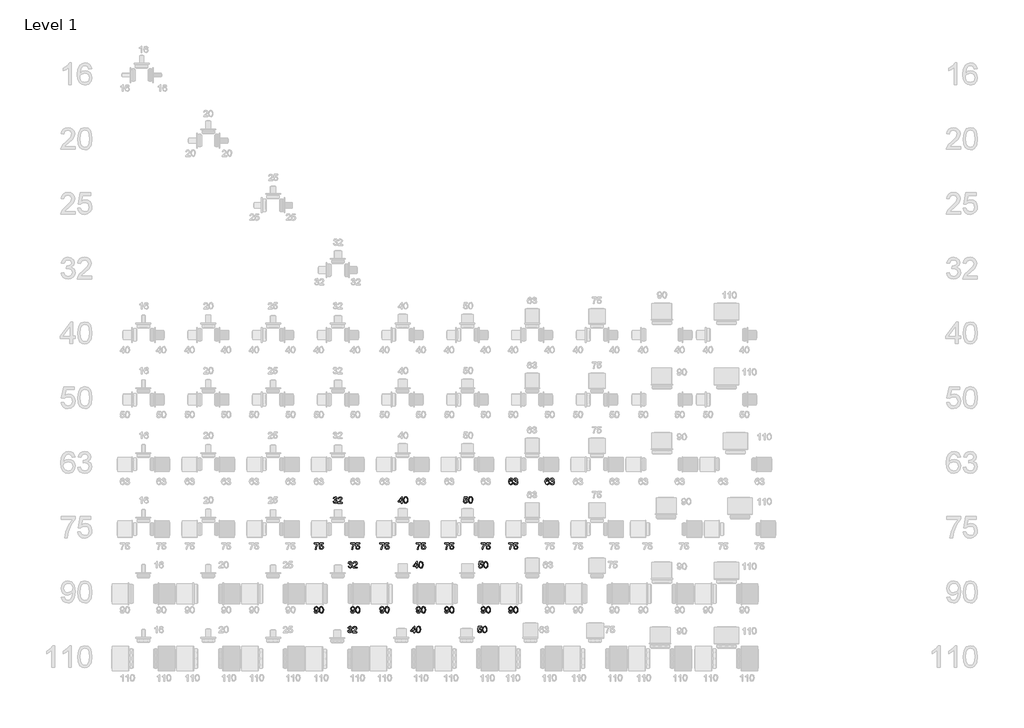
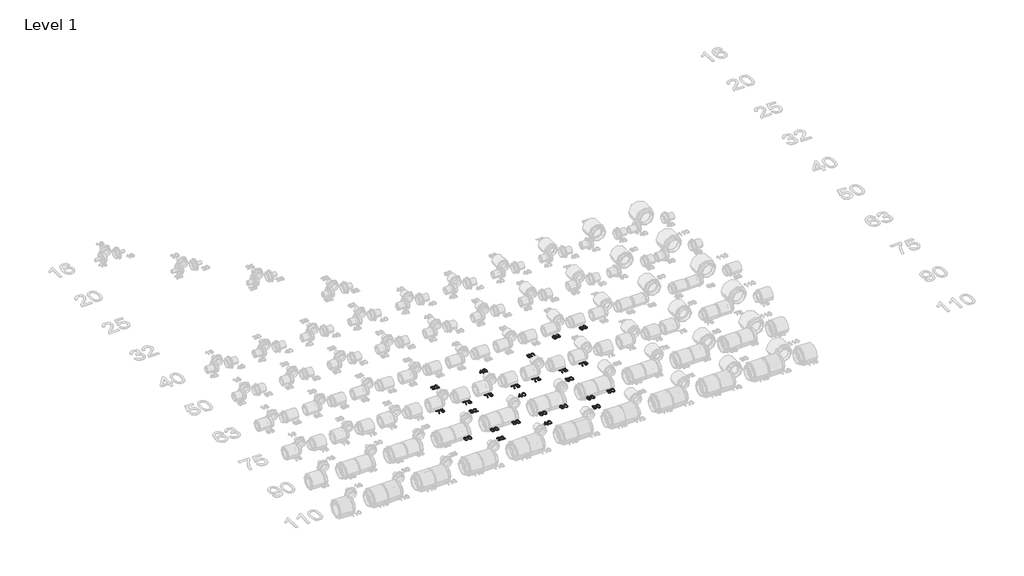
# One storey, part 22 of 58: 25 proxies.
"""IFC4 building model written with IfcOpenShell, lengths in millimetres."""

from ifc_helpers import new_model, si_unit, frame, origin, place, context, project, spatial, polyline, outline, extrude, element, save

model = new_model("IFC4")

# Units and contexts
model_context = context("Model", 3, world=origin())
ifc_project = project(units=[si_unit("LENGTHUNIT", "METRE", prefix="MILLI")], contexts=[model_context])

# Site, building, storey
site = spatial("IfcSite", under=ifc_project)
building = spatial("IfcBuilding", under=site)
storey = spatial("IfcBuildingStorey", under=building, Name="Level 1", Elevation=27.3876384)

# Proxies
placement = place(None, origin())
element("IfcBuildingElementProxy", 1, Name="30mm Arial", ObjectType="30mm Arial", at=placement, inside=storey, context=model_context, shape_type="SweptSolid", body=[
    extrude(outline(polyline([(14975.8418771, 16774.7106348), (14972.0747655, 16774.2397458), (14970.6473834, 16777.381458), (14966.8729141, 16778.9486353), (14963.4736845, 16778.036288), (14960.9021893, 16774.6113066), (14959.8316527, 16767.8974602), (14963.1536271, 16770.9030561), (14967.2702266, 16771.885301), (14973.6713734, 16769.1997625), (14976.3127661, 16762.261508), (14975.0693249, 16757.0633355), (14971.6480224, 16753.3845155), (14966.711046, 16752.107965), (14959.0333488, 16755.4924793), (14956.0645411, 16766.6466614), (14959.3607637, 16779.2797291), (14967.1083586, 16782.715747), (14973.0606892, 16780.589389), (14975.8418771, 16774.7106348)]), holes=[polyline([(14959.8316527, 16762.3203692), (14960.703533, 16759.0572559), (14963.0211896, 16756.6880958), (14966.4167404, 16755.8750766), (14970.8570761, 16757.5599761), (14972.5456545, 16762.1364282), (14970.879149, 16766.5179027), (14966.26223, 16768.1181894), (14961.7041721, 16766.5179027), (14959.8316527, 16762.3203692)])]), frame((0.0, 0.0, 27.3876384), z_axis=(0.0, 0.0, 1.0), x_axis=(1.0, 0.0, 0.0)), (0.0, 0.0, 1.0), 2.0),
    extrude(outline(polyline([(14979.6089888, 16760.5839661), (14983.3761004, 16761.0548551), (14985.4546337, 16757.0890872), (14989.3431464, 16755.8750766), (14993.9195984, 16757.5452609), (14995.6192132, 16761.6802545), (14993.9343137, 16765.5761248), (14989.6521672, 16767.1175504), (14987.0107745, 16766.7055225), (14987.43016, 16770.4726342), (14992.3082752, 16771.5100614), (14994.2065463, 16774.8357146), (14992.8306677, 16777.7824494), (14989.2842852, 16778.9486353), (14985.693757, 16777.771413), (14983.8469893, 16774.2397458), (14980.0798777, 16774.7106348), (14983.1627288, 16780.6188196), (14989.1518477, 16782.715747), (14993.6951904, 16781.6819986), (14996.8736908, 16778.8566648), (14997.973658, 16775.0564438), (14996.9288731, 16771.5836378), (14993.8386643, 16769.0893979), (14997.9442274, 16766.5142239), (14999.3863248, 16761.6140357), (14996.50213, 16754.8744376), (14989.2107088, 16752.107965), (14982.6035482, 16754.4697674), (14979.6089888, 16760.5839661)])), frame((0.0, 0.0, 27.3876384), z_axis=(0.0, 0.0, 1.0), x_axis=(1.0, 0.0, 0.0)), (0.0, 0.0, 1.0), 2.0),
])
element("IfcBuildingElementProxy", 2, Name="30mm Arial", ObjectType="30mm Arial", at=placement, inside=storey, context=model_context, shape_type="SweptSolid", body=[
    extrude(outline(polyline([(15144.5918771, 16774.7106348), (15140.8247655, 16774.2397458), (15139.3973834, 16777.381458), (15135.6229141, 16778.9486353), (15132.2236845, 16778.036288), (15129.6521893, 16774.6113066), (15128.5816527, 16767.8974602), (15131.9036271, 16770.9030561), (15136.0202266, 16771.885301), (15142.4213734, 16769.1997625), (15145.0627661, 16762.261508), (15143.8193249, 16757.0633355), (15140.3980224, 16753.3845155), (15135.461046, 16752.107965), (15127.7833488, 16755.4924793), (15124.8145411, 16766.6466614), (15128.1107637, 16779.2797291), (15135.8583586, 16782.715747), (15141.8106892, 16780.589389), (15144.5918771, 16774.7106348)]), holes=[polyline([(15128.5816527, 16762.3203692), (15129.453533, 16759.0572559), (15131.7711896, 16756.6880958), (15135.1667404, 16755.8750766), (15139.6070761, 16757.5599761), (15141.2956545, 16762.1364282), (15139.629149, 16766.5179027), (15135.01223, 16768.1181894), (15130.4541721, 16766.5179027), (15128.5816527, 16762.3203692)])]), frame((0.0, 0.0, 27.3876384), z_axis=(0.0, 0.0, 1.0), x_axis=(1.0, 0.0, 0.0)), (0.0, 0.0, 1.0), 2.0),
    extrude(outline(polyline([(15148.3589888, 16760.5839661), (15152.1261004, 16761.0548551), (15154.2046337, 16757.0890872), (15158.0931464, 16755.8750766), (15162.6695984, 16757.5452609), (15164.3692132, 16761.6802545), (15162.6843137, 16765.5761248), (15158.4021672, 16767.1175504), (15155.7607745, 16766.7055225), (15156.18016, 16770.4726342), (15161.0582752, 16771.5100614), (15162.9565463, 16774.8357146), (15161.5806677, 16777.7824494), (15158.0342852, 16778.9486353), (15154.443757, 16777.771413), (15152.5969893, 16774.2397458), (15148.8298777, 16774.7106348), (15151.9127288, 16780.6188196), (15157.9018477, 16782.715747), (15162.4451904, 16781.6819986), (15165.6236908, 16778.8566648), (15166.723658, 16775.0564438), (15165.6788731, 16771.5836378), (15162.5886643, 16769.0893979), (15166.6942274, 16766.5142239), (15168.1363248, 16761.6140357), (15165.25213, 16754.8744376), (15157.9607088, 16752.107965), (15151.3535482, 16754.4697674), (15148.3589888, 16760.5839661)])), frame((0.0, 0.0, 27.3876384), z_axis=(0.0, 0.0, 1.0), x_axis=(1.0, 0.0, 0.0)), (0.0, 0.0, 1.0), 2.0),
])
element("IfcBuildingElementProxy", 3, Name="30mm Arial", ObjectType="30mm Arial", at=placement, inside=storey, context=model_context, shape_type="SweptSolid", body=[
    extrude(outline(polyline([(14056.53543, 16478.4777464), (14056.53543, 16482.244858), (14076.3127661, 16482.244858), (14076.3127661, 16479.1987951), (14070.7025657, 16471.0943547), (14066.4093828, 16460.7679071), (14065.0114312, 16452.5788539), (14061.2443196, 16452.5788539), (14062.7415993, 16461.076928), (14066.8508412, 16470.6823269), (14072.5456545, 16478.4777464), (14056.53543, 16478.4777464)])), frame((0.0, 0.0, 27.3876384), z_axis=(0.0, 0.0, 1.0), x_axis=(1.0, 0.0, 0.0)), (0.0, 0.0, 1.0), 2.0),
    extrude(outline(polyline([(14079.6089888, 16460.5839661), (14083.3761004, 16461.0548551), (14085.2743715, 16457.1737001), (14089.2107088, 16455.8750766), (14093.9343137, 16457.6813772), (14095.6192132, 16462.4748796), (14094.0409994, 16466.9483247), (14089.26957, 16468.5890784), (14085.9623108, 16467.9342484), (14083.8469893, 16466.2346336), (14080.0798777, 16466.7055225), (14083.3761004, 16482.244858), (14097.973658, 16482.244858), (14097.973658, 16478.4777464), (14086.4221633, 16478.4777464), (14084.8108402, 16470.1783286), (14090.3217125, 16472.35619), (14096.7633262, 16469.6559361), (14099.3863248, 16462.7103241), (14097.0245224, 16455.7205662), (14089.1959936, 16452.107965), (14082.5483659, 16454.4293004), (14079.6089888, 16460.5839661)])), frame((0.0, 0.0, 27.3876384), z_axis=(0.0, 0.0, 1.0), x_axis=(1.0, 0.0, 0.0)), (0.0, 0.0, 1.0), 2.0),
])
element("IfcBuildingElementProxy", 4, Name="30mm Arial", ObjectType="30mm Arial", at=placement, inside=storey, context=model_context, shape_type="SweptSolid", body=[
    extrude(outline(polyline([(14225.28543, 16478.4777464), (14225.28543, 16482.244858), (14245.0627661, 16482.244858), (14245.0627661, 16479.1987951), (14239.4525657, 16471.0943547), (14235.1593828, 16460.7679071), (14233.7614312, 16452.5788539), (14229.9943196, 16452.5788539), (14231.4915993, 16461.076928), (14235.6008412, 16470.6823269), (14241.2956545, 16478.4777464), (14225.28543, 16478.4777464)])), frame((0.0, 0.0, 27.3876384), z_axis=(0.0, 0.0, 1.0), x_axis=(1.0, 0.0, 0.0)), (0.0, 0.0, 1.0), 2.0),
    extrude(outline(polyline([(14248.3589888, 16460.5839661), (14252.1261004, 16461.0548551), (14254.0243715, 16457.1737001), (14257.9607088, 16455.8750766), (14262.6843137, 16457.6813772), (14264.3692132, 16462.4748796), (14262.7909994, 16466.9483247), (14258.01957, 16468.5890784), (14254.7123108, 16467.9342484), (14252.5969893, 16466.2346336), (14248.8298777, 16466.7055225), (14252.1261004, 16482.244858), (14266.723658, 16482.244858), (14266.723658, 16478.4777464), (14255.1721633, 16478.4777464), (14253.5608402, 16470.1783286), (14259.0717125, 16472.35619), (14265.5133262, 16469.6559361), (14268.1363248, 16462.7103241), (14265.7745224, 16455.7205662), (14257.9459936, 16452.107965), (14251.2983659, 16454.4293004), (14248.3589888, 16460.5839661)])), frame((0.0, 0.0, 27.3876384), z_axis=(0.0, 0.0, 1.0), x_axis=(1.0, 0.0, 0.0)), (0.0, 0.0, 1.0), 2.0),
])
element("IfcBuildingElementProxy", 5, Name="30mm Arial", ObjectType="30mm Arial", at=placement, inside=storey, context=model_context, shape_type="SweptSolid", body=[
    extrude(outline(polyline([(14143.4636148, 16674.4026067), (14147.2307265, 16674.8734957), (14149.3092597, 16670.9077278), (14153.1977724, 16669.6937172), (14157.7742244, 16671.3639014), (14159.4738393, 16675.4988951), (14157.7889397, 16679.3947654), (14153.5067933, 16680.9361909), (14150.8654006, 16680.5241631), (14151.284786, 16684.2912747), (14156.1629013, 16685.328702), (14158.0611724, 16688.6543552), (14156.6852937, 16691.60109), (14153.1389113, 16692.7672759), (14149.548383, 16691.5900535), (14147.7016154, 16688.0583864), (14143.9345038, 16688.5292753), (14147.0173549, 16694.4374602), (14153.0064738, 16696.5343875), (14157.5498164, 16695.5006391), (14160.7283169, 16692.6753054), (14161.828284, 16688.8750844), (14160.7834992, 16685.4022784), (14157.6932904, 16682.9080384), (14161.7988535, 16680.3328645), (14163.2409509, 16675.4326763), (14160.356756, 16668.6930781), (14153.0653349, 16665.9266055), (14146.4581743, 16668.2884079), (14143.4636148, 16674.4026067)])), frame((0.0, 0.0, 27.3876384), z_axis=(0.0, 0.0, 1.0), x_axis=(1.0, 0.0, 0.0)), (0.0, 0.0, 1.0), 2.0),
    extrude(outline(polyline([(14185.8436207, 16670.1646061), (14185.8436207, 16666.3974945), (14166.0662846, 16666.3974945), (14166.4709548, 16668.9947414), (14168.7591808, 16672.9936187), (14173.475428, 16677.3603779), (14179.9795817, 16683.6364448), (14181.6056201, 16687.9038759), (14180.0715522, 16691.3582879), (14176.0653172, 16692.7672759), (14171.8898566, 16691.3913972), (14170.3042852, 16687.5874974), (14166.5371736, 16688.0583864), (14169.4250472, 16694.3638838), (14176.1462513, 16696.5343875), (14182.8895283, 16694.1210816), (14185.3727317, 16688.1319628), (14184.7031865, 16684.5598286), (14182.4775004, 16680.8662934), (14177.0806715, 16675.704909), (14172.7470216, 16672.0812713), (14171.0474068, 16670.1646061), (14185.8436207, 16670.1646061)])), frame((0.0, 0.0, 27.3876384), z_axis=(0.0, 0.0, 1.0), x_axis=(1.0, 0.0, 0.0)), (0.0, 0.0, 1.0), 2.0),
])
element("IfcBuildingElementProxy", 6, Name="30mm Arial", ObjectType="30mm Arial", at=placement, inside=storey, context=model_context, shape_type="SweptSolid", body=[
    extrude(outline(polyline([(14360.53543, 16478.4777464), (14360.53543, 16482.244858), (14380.3127661, 16482.244858), (14380.3127661, 16479.1987951), (14374.7025657, 16471.0943547), (14370.4093828, 16460.7679071), (14369.0114312, 16452.5788539), (14365.2443196, 16452.5788539), (14366.7415993, 16461.076928), (14370.8508412, 16470.6823269), (14376.5456545, 16478.4777464), (14360.53543, 16478.4777464)])), frame((0.0, 0.0, 27.3876384), z_axis=(0.0, 0.0, 1.0), x_axis=(1.0, 0.0, 0.0)), (0.0, 0.0, 1.0), 2.0),
    extrude(outline(polyline([(14383.6089888, 16460.5839661), (14387.3761004, 16461.0548551), (14389.2743715, 16457.1737001), (14393.2107088, 16455.8750766), (14397.9343137, 16457.6813772), (14399.6192132, 16462.4748796), (14398.0409994, 16466.9483247), (14393.26957, 16468.5890784), (14389.9623108, 16467.9342484), (14387.8469893, 16466.2346336), (14384.0798777, 16466.7055225), (14387.3761004, 16482.244858), (14401.973658, 16482.244858), (14401.973658, 16478.4777464), (14390.4221633, 16478.4777464), (14388.8108402, 16470.1783286), (14394.3217125, 16472.35619), (14400.7633262, 16469.6559361), (14403.3863248, 16462.7103241), (14401.0245224, 16455.7205662), (14393.1959936, 16452.107965), (14386.5483659, 16454.4293004), (14383.6089888, 16460.5839661)])), frame((0.0, 0.0, 27.3876384), z_axis=(0.0, 0.0, 1.0), x_axis=(1.0, 0.0, 0.0)), (0.0, 0.0, 1.0), 2.0),
])
element("IfcBuildingElementProxy", 7, Name="30mm Arial", ObjectType="30mm Arial", at=placement, inside=storey, context=model_context, shape_type="SweptSolid", body=[
    extrude(outline(polyline([(14529.28543, 16478.4777464), (14529.28543, 16482.244858), (14549.0627661, 16482.244858), (14549.0627661, 16479.1987951), (14543.4525657, 16471.0943547), (14539.1593828, 16460.7679071), (14537.7614312, 16452.5788539), (14533.9943196, 16452.5788539), (14535.4915993, 16461.076928), (14539.6008412, 16470.6823269), (14545.2956545, 16478.4777464), (14529.28543, 16478.4777464)])), frame((0.0, 0.0, 27.3876384), z_axis=(0.0, 0.0, 1.0), x_axis=(1.0, 0.0, 0.0)), (0.0, 0.0, 1.0), 2.0),
    extrude(outline(polyline([(14552.3589888, 16460.5839661), (14556.1261004, 16461.0548551), (14558.0243715, 16457.1737001), (14561.9607088, 16455.8750766), (14566.6843137, 16457.6813772), (14568.3692132, 16462.4748796), (14566.7909994, 16466.9483247), (14562.01957, 16468.5890784), (14558.7123108, 16467.9342484), (14556.5969893, 16466.2346336), (14552.8298777, 16466.7055225), (14556.1261004, 16482.244858), (14570.723658, 16482.244858), (14570.723658, 16478.4777464), (14559.1721633, 16478.4777464), (14557.5608402, 16470.1783286), (14563.0717125, 16472.35619), (14569.5133262, 16469.6559361), (14572.1363248, 16462.7103241), (14569.7745224, 16455.7205662), (14561.9459936, 16452.107965), (14555.2983659, 16454.4293004), (14552.3589888, 16460.5839661)])), frame((0.0, 0.0, 27.3876384), z_axis=(0.0, 0.0, 1.0), x_axis=(1.0, 0.0, 0.0)), (0.0, 0.0, 1.0), 2.0),
])
element("IfcBuildingElementProxy", 8, Name="30mm Arial", ObjectType="30mm Arial", at=placement, inside=storey, context=model_context, shape_type="SweptSolid", body=[
    extrude(outline(polyline([(14459.7067276, 16666.3974945), (14459.7067276, 16673.4608288), (14446.050948, 16673.4608288), (14446.050948, 16677.2279404), (14460.6485055, 16696.0634986), (14463.4738393, 16696.0634986), (14463.4738393, 16677.2279404), (14467.2409509, 16677.2279404), (14467.2409509, 16673.4608288), (14463.4738393, 16673.4608288), (14463.4738393, 16666.3974945), (14459.7067276, 16666.3974945)]), holes=[polyline([(14459.7067276, 16677.2279404), (14459.7067276, 16688.8677268), (14450.6862611, 16677.2279404), (14459.7067276, 16677.2279404)])]), frame((0.0, 0.0, 27.3876384), z_axis=(0.0, 0.0, 1.0), x_axis=(1.0, 0.0, 0.0)), (0.0, 0.0, 1.0), 2.0),
    extrude(outline(polyline([(14470.5371736, 16681.2231389), (14471.6444984, 16689.8941175), (14474.9333634, 16694.8936338), (14480.4258416, 16696.5343875), (14484.8257103, 16695.5631791), (14487.8644155, 16692.7635971), (14489.6302491, 16688.3048673), (14490.3145096, 16681.2231389), (14489.2182213, 16672.5889485), (14485.9403927, 16667.5783957), (14480.4258416, 16665.9266055), (14473.5390906, 16668.7960851), (14470.5371736, 16681.2231389)]), holes=[polyline([(14474.3042852, 16681.2304965), (14476.0701188, 16671.8752574), (14480.4258416, 16669.6937172), (14484.7815644, 16671.882615), (14486.547398, 16681.2304965), (14484.8404255, 16690.4790499), (14480.3816958, 16692.7672759), (14476.1289799, 16690.7512826), (14474.3042852, 16681.2304965)])]), frame((0.0, 0.0, 27.3876384), z_axis=(0.0, 0.0, 1.0), x_axis=(1.0, 0.0, 0.0)), (0.0, 0.0, 1.0), 2.0),
])
element("IfcBuildingElementProxy", 9, Name="30mm Arial", ObjectType="30mm Arial", at=placement, inside=storey, context=model_context, shape_type="SweptSolid", body=[
    extrude(outline(polyline([(14660.53543, 16478.4777464), (14660.53543, 16482.244858), (14680.3127661, 16482.244858), (14680.3127661, 16479.1987951), (14674.7025657, 16471.0943547), (14670.4093828, 16460.7679071), (14669.0114312, 16452.5788539), (14665.2443196, 16452.5788539), (14666.7415993, 16461.076928), (14670.8508412, 16470.6823269), (14676.5456545, 16478.4777464), (14660.53543, 16478.4777464)])), frame((0.0, 0.0, 27.3876384), z_axis=(0.0, 0.0, 1.0), x_axis=(1.0, 0.0, 0.0)), (0.0, 0.0, 1.0), 2.0),
    extrude(outline(polyline([(14683.6089888, 16460.5839661), (14687.3761004, 16461.0548551), (14689.2743715, 16457.1737001), (14693.2107088, 16455.8750766), (14697.9343137, 16457.6813772), (14699.6192132, 16462.4748796), (14698.0409994, 16466.9483247), (14693.26957, 16468.5890784), (14689.9623108, 16467.9342484), (14687.8469893, 16466.2346336), (14684.0798777, 16466.7055225), (14687.3761004, 16482.244858), (14701.973658, 16482.244858), (14701.973658, 16478.4777464), (14690.4221633, 16478.4777464), (14688.8108402, 16470.1783286), (14694.3217125, 16472.35619), (14700.7633262, 16469.6559361), (14703.3863248, 16462.7103241), (14701.0245224, 16455.7205662), (14693.1959936, 16452.107965), (14686.5483659, 16454.4293004), (14683.6089888, 16460.5839661)])), frame((0.0, 0.0, 27.3876384), z_axis=(0.0, 0.0, 1.0), x_axis=(1.0, 0.0, 0.0)), (0.0, 0.0, 1.0), 2.0),
])
element("IfcBuildingElementProxy", 10, Name="30mm Arial", ObjectType="30mm Arial", at=placement, inside=storey, context=model_context, shape_type="SweptSolid", body=[
    extrude(outline(polyline([(14829.28543, 16478.4777464), (14829.28543, 16482.244858), (14849.0627661, 16482.244858), (14849.0627661, 16479.1987951), (14843.4525657, 16471.0943547), (14839.1593828, 16460.7679071), (14837.7614312, 16452.5788539), (14833.9943196, 16452.5788539), (14835.4915993, 16461.076928), (14839.6008412, 16470.6823269), (14845.2956545, 16478.4777464), (14829.28543, 16478.4777464)])), frame((0.0, 0.0, 27.3876384), z_axis=(0.0, 0.0, 1.0), x_axis=(1.0, 0.0, 0.0)), (0.0, 0.0, 1.0), 2.0),
    extrude(outline(polyline([(14852.3589888, 16460.5839661), (14856.1261004, 16461.0548551), (14858.0243715, 16457.1737001), (14861.9607088, 16455.8750766), (14866.6843137, 16457.6813772), (14868.3692132, 16462.4748796), (14866.7909994, 16466.9483247), (14862.01957, 16468.5890784), (14858.7123108, 16467.9342484), (14856.5969893, 16466.2346336), (14852.8298777, 16466.7055225), (14856.1261004, 16482.244858), (14870.723658, 16482.244858), (14870.723658, 16478.4777464), (14859.1721633, 16478.4777464), (14857.5608402, 16470.1783286), (14863.0717125, 16472.35619), (14869.5133262, 16469.6559361), (14872.1363248, 16462.7103241), (14869.7745224, 16455.7205662), (14861.9459936, 16452.107965), (14855.2983659, 16454.4293004), (14852.3589888, 16460.5839661)])), frame((0.0, 0.0, 27.3876384), z_axis=(0.0, 0.0, 1.0), x_axis=(1.0, 0.0, 0.0)), (0.0, 0.0, 1.0), 2.0),
])
element("IfcBuildingElementProxy", 11, Name="30mm Arial", ObjectType="30mm Arial", at=placement, inside=storey, context=model_context, shape_type="SweptSolid", body=[
    extrude(outline(polyline([(14747.4636148, 16674.4026067), (14751.2307265, 16674.8734957), (14753.1289976, 16670.9923406), (14757.0653349, 16669.6937172), (14761.7889397, 16671.5000178), (14763.4738393, 16676.2935202), (14761.8956255, 16680.7669652), (14757.124196, 16682.4077189), (14753.8169369, 16681.752889), (14751.7016154, 16680.0532742), (14747.9345038, 16680.5241631), (14751.2307265, 16696.0634986), (14765.828284, 16696.0634986), (14765.828284, 16692.296387), (14754.2767894, 16692.296387), (14752.6654662, 16683.9969691), (14758.1763385, 16686.1748306), (14764.6179523, 16683.4745767), (14767.2409509, 16676.5289646), (14764.8791485, 16669.5392067), (14757.0506196, 16665.9266055), (14750.402992, 16668.2479409), (14747.4636148, 16674.4026067)])), frame((0.0, 0.0, 27.3876384), z_axis=(0.0, 0.0, 1.0), x_axis=(1.0, 0.0, 0.0)), (0.0, 0.0, 1.0), 2.0),
    extrude(outline(polyline([(14770.5371736, 16681.2231389), (14771.6444984, 16689.8941175), (14774.9333634, 16694.8936338), (14780.4258416, 16696.5343875), (14784.8257103, 16695.5631791), (14787.8644155, 16692.7635971), (14789.6302491, 16688.3048673), (14790.3145096, 16681.2231389), (14789.2182213, 16672.5889485), (14785.9403927, 16667.5783957), (14780.4258416, 16665.9266055), (14773.5390906, 16668.7960851), (14770.5371736, 16681.2231389)]), holes=[polyline([(14774.3042852, 16681.2304965), (14776.0701188, 16671.8752574), (14780.4258416, 16669.6937172), (14784.7815644, 16671.882615), (14786.547398, 16681.2304965), (14784.8404255, 16690.4790499), (14780.3816958, 16692.7672759), (14776.1289799, 16690.7512826), (14774.3042852, 16681.2304965)])]), frame((0.0, 0.0, 27.3876384), z_axis=(0.0, 0.0, 1.0), x_axis=(1.0, 0.0, 0.0)), (0.0, 0.0, 1.0), 2.0),
])
element("IfcBuildingElementProxy", 12, Name="30mm Arial", ObjectType="30mm Arial", at=placement, inside=storey, context=model_context, shape_type="SweptSolid", body=[
    extrude(outline(polyline([(14956.53543, 16478.4777464), (14956.53543, 16482.244858), (14976.3127661, 16482.244858), (14976.3127661, 16479.1987951), (14970.7025657, 16471.0943547), (14966.4093828, 16460.7679071), (14965.0114312, 16452.5788539), (14961.2443196, 16452.5788539), (14962.7415993, 16461.076928), (14966.8508412, 16470.6823269), (14972.5456545, 16478.4777464), (14956.53543, 16478.4777464)])), frame((0.0, 0.0, 27.3876384), z_axis=(0.0, 0.0, 1.0), x_axis=(1.0, 0.0, 0.0)), (0.0, 0.0, 1.0), 2.0),
    extrude(outline(polyline([(14979.6089888, 16460.5839661), (14983.3761004, 16461.0548551), (14985.2743715, 16457.1737001), (14989.2107088, 16455.8750766), (14993.9343137, 16457.6813772), (14995.6192132, 16462.4748796), (14994.0409994, 16466.9483247), (14989.26957, 16468.5890784), (14985.9623108, 16467.9342484), (14983.8469893, 16466.2346336), (14980.0798777, 16466.7055225), (14983.3761004, 16482.244858), (14997.973658, 16482.244858), (14997.973658, 16478.4777464), (14986.4221633, 16478.4777464), (14984.8108402, 16470.1783286), (14990.3217125, 16472.35619), (14996.7633262, 16469.6559361), (14999.3863248, 16462.7103241), (14997.0245224, 16455.7205662), (14989.1959936, 16452.107965), (14982.5483659, 16454.4293004), (14979.6089888, 16460.5839661)])), frame((0.0, 0.0, 27.3876384), z_axis=(0.0, 0.0, 1.0), x_axis=(1.0, 0.0, 0.0)), (0.0, 0.0, 1.0), 2.0),
])
element("IfcBuildingElementProxy", 13, Name="30mm Arial", ObjectType="30mm Arial", at=placement, inside=storey, context=model_context, shape_type="SweptSolid", body=[
    extrude(outline(polyline([(14057.006319, 16165.1130772), (14060.7734306, 16165.5839661), (14062.4656878, 16161.9897591), (14065.6736188, 16160.8750766), (14068.7233605, 16161.5924465), (14070.7908573, 16163.5091117), (14072.023262, 16166.7832615), (14072.5677274, 16171.1536996), (14069.5327009, 16169.0346993), (14065.4013861, 16167.9384109), (14059.1069252, 16170.6165918), (14056.53543, 16177.6725685), (14059.232005, 16184.956632), (14065.9899973, 16187.715747), (14071.3573956, 16186.141212), (14075.0509308, 16181.6530517), (14076.3127661, 16173.2211964), (14075.0546097, 16164.0719711), (14071.3132498, 16158.8885138), (14065.4970354, 16157.107965), (14059.7065728, 16159.2085712), (14057.006319, 16165.1130772)]), holes=[polyline([(14072.5456545, 16177.7608602), (14070.919616, 16182.2784511), (14066.6006814, 16183.9486353), (14062.0683752, 16182.1496924), (14060.3025417, 16177.4886275), (14061.9727259, 16173.3131669), (14066.4976745, 16171.7055225), (14070.8423608, 16173.3131669), (14072.5456545, 16177.7608602)])]), frame((0.0, 0.0, 27.3876384), z_axis=(0.0, 0.0, 1.0), x_axis=(1.0, 0.0, 0.0)), (0.0, 0.0, 1.0), 2.0),
    extrude(outline(polyline([(14079.6089888, 16172.4044983), (14080.7163136, 16181.075477), (14084.0051786, 16186.0749933), (14089.4976568, 16187.715747), (14093.8975255, 16186.7445385), (14096.9362307, 16183.9449565), (14098.7020643, 16179.4862267), (14099.3863248, 16172.4044983), (14098.2900365, 16163.7703079), (14095.0122079, 16158.7597551), (14089.4976568, 16157.107965), (14082.6109058, 16159.9774445), (14079.6089888, 16172.4044983)]), holes=[polyline([(14083.3761004, 16172.411856), (14085.141934, 16163.0566168), (14089.4976568, 16160.8750766), (14093.8533796, 16163.0639745), (14095.6192132, 16172.411856), (14093.9122407, 16181.6604093), (14089.453511, 16183.9486353), (14085.2007951, 16181.932642), (14083.3761004, 16172.411856)])]), frame((0.0, 0.0, 27.3876384), z_axis=(0.0, 0.0, 1.0), x_axis=(1.0, 0.0, 0.0)), (0.0, 0.0, 1.0), 2.0),
])
element("IfcBuildingElementProxy", 14, Name="30mm Arial", ObjectType="30mm Arial", at=placement, inside=storey, context=model_context, shape_type="SweptSolid", body=[
    extrude(outline(polyline([(14225.756319, 16165.1130772), (14229.5234306, 16165.5839661), (14231.2156878, 16161.9897591), (14234.4236188, 16160.8750766), (14237.4733605, 16161.5924465), (14239.5408573, 16163.5091117), (14240.773262, 16166.7832615), (14241.3177274, 16171.1536996), (14238.2827009, 16169.0346993), (14234.1513861, 16167.9384109), (14227.8569252, 16170.6165918), (14225.28543, 16177.6725685), (14227.982005, 16184.956632), (14234.7399973, 16187.715747), (14240.1073956, 16186.141212), (14243.8009308, 16181.6530517), (14245.0627661, 16173.2211964), (14243.8046097, 16164.0719711), (14240.0632498, 16158.8885138), (14234.2470354, 16157.107965), (14228.4565728, 16159.2085712), (14225.756319, 16165.1130772)]), holes=[polyline([(14241.2956545, 16177.7608602), (14239.669616, 16182.2784511), (14235.3506814, 16183.9486353), (14230.8183752, 16182.1496924), (14229.0525417, 16177.4886275), (14230.7227259, 16173.3131669), (14235.2476745, 16171.7055225), (14239.5923608, 16173.3131669), (14241.2956545, 16177.7608602)])]), frame((0.0, 0.0, 27.3876384), z_axis=(0.0, 0.0, 1.0), x_axis=(1.0, 0.0, 0.0)), (0.0, 0.0, 1.0), 2.0),
    extrude(outline(polyline([(14248.3589888, 16172.4044983), (14249.4663136, 16181.075477), (14252.7551786, 16186.0749933), (14258.2476568, 16187.715747), (14262.6475255, 16186.7445385), (14265.6862307, 16183.9449565), (14267.4520643, 16179.4862267), (14268.1363248, 16172.4044983), (14267.0400365, 16163.7703079), (14263.7622079, 16158.7597551), (14258.2476568, 16157.107965), (14251.3609058, 16159.9774445), (14248.3589888, 16172.4044983)]), holes=[polyline([(14252.1261004, 16172.411856), (14253.891934, 16163.0566168), (14258.2476568, 16160.8750766), (14262.6033796, 16163.0639745), (14264.3692132, 16172.411856), (14262.6622407, 16181.6604093), (14258.203511, 16183.9486353), (14253.9507951, 16181.932642), (14252.1261004, 16172.411856)])]), frame((0.0, 0.0, 27.3876384), z_axis=(0.0, 0.0, 1.0), x_axis=(1.0, 0.0, 0.0)), (0.0, 0.0, 1.0), 2.0),
])
element("IfcBuildingElementProxy", 15, Name="30mm Arial", ObjectType="30mm Arial", at=placement, inside=storey, context=model_context, shape_type="SweptSolid", body=[
    extrude(outline(polyline([(14213.4636148, 16374.4026067), (14217.2307265, 16374.8734957), (14219.3092597, 16370.9077278), (14223.1977724, 16369.6937172), (14227.7742244, 16371.3639014), (14229.4738393, 16375.4988951), (14227.7889397, 16379.3947654), (14223.5067933, 16380.9361909), (14220.8654006, 16380.5241631), (14221.284786, 16384.2912747), (14226.1629013, 16385.328702), (14228.0611724, 16388.6543552), (14226.6852937, 16391.60109), (14223.1389113, 16392.7672759), (14219.548383, 16391.5900535), (14217.7016154, 16388.0583864), (14213.9345038, 16388.5292753), (14217.0173549, 16394.4374602), (14223.0064738, 16396.5343875), (14227.5498164, 16395.5006391), (14230.7283169, 16392.6753054), (14231.828284, 16388.8750844), (14230.7834992, 16385.4022784), (14227.6932904, 16382.9080384), (14231.7988535, 16380.3328645), (14233.2409509, 16375.4326763), (14230.356756, 16368.6930781), (14223.0653349, 16365.9266055), (14216.4581743, 16368.2884079), (14213.4636148, 16374.4026067)])), frame((0.0, 0.0, 27.3876384), z_axis=(0.0, 0.0, 1.0), x_axis=(1.0, 0.0, 0.0)), (0.0, 0.0, 1.0), 2.0),
    extrude(outline(polyline([(14255.8436207, 16370.1646061), (14255.8436207, 16366.3974945), (14236.0662846, 16366.3974945), (14236.4709548, 16368.9947414), (14238.7591808, 16372.9936187), (14243.475428, 16377.3603779), (14249.9795817, 16383.6364448), (14251.6056201, 16387.9038759), (14250.0715522, 16391.3582879), (14246.0653172, 16392.7672759), (14241.8898566, 16391.3913972), (14240.3042852, 16387.5874974), (14236.5371736, 16388.0583864), (14239.4250472, 16394.3638838), (14246.1462513, 16396.5343875), (14252.8895283, 16394.1210816), (14255.3727317, 16388.1319628), (14254.7031865, 16384.5598286), (14252.4775004, 16380.8662934), (14247.0806715, 16375.704909), (14242.7470216, 16372.0812713), (14241.0474068, 16370.1646061), (14255.8436207, 16370.1646061)])), frame((0.0, 0.0, 27.3876384), z_axis=(0.0, 0.0, 1.0), x_axis=(1.0, 0.0, 0.0)), (0.0, 0.0, 1.0), 2.0),
])
element("IfcBuildingElementProxy", 16, Name="30mm Arial", ObjectType="30mm Arial", at=placement, inside=storey, context=model_context, shape_type="SweptSolid", body=[
    extrude(outline(polyline([(14361.006319, 16165.1130772), (14364.7734306, 16165.5839661), (14366.4656878, 16161.9897591), (14369.6736188, 16160.8750766), (14372.7233605, 16161.5924465), (14374.7908573, 16163.5091117), (14376.023262, 16166.7832615), (14376.5677274, 16171.1536996), (14373.5327009, 16169.0346993), (14369.4013861, 16167.9384109), (14363.1069252, 16170.6165918), (14360.53543, 16177.6725685), (14363.232005, 16184.956632), (14369.9899973, 16187.715747), (14375.3573956, 16186.141212), (14379.0509308, 16181.6530517), (14380.3127661, 16173.2211964), (14379.0546097, 16164.0719711), (14375.3132498, 16158.8885138), (14369.4970354, 16157.107965), (14363.7065728, 16159.2085712), (14361.006319, 16165.1130772)]), holes=[polyline([(14376.5456545, 16177.7608602), (14374.919616, 16182.2784511), (14370.6006814, 16183.9486353), (14366.0683752, 16182.1496924), (14364.3025417, 16177.4886275), (14365.9727259, 16173.3131669), (14370.4976745, 16171.7055225), (14374.8423608, 16173.3131669), (14376.5456545, 16177.7608602)])]), frame((0.0, 0.0, 27.3876384), z_axis=(0.0, 0.0, 1.0), x_axis=(1.0, 0.0, 0.0)), (0.0, 0.0, 1.0), 2.0),
    extrude(outline(polyline([(14383.6089888, 16172.4044983), (14384.7163136, 16181.075477), (14388.0051786, 16186.0749933), (14393.4976568, 16187.715747), (14397.8975255, 16186.7445385), (14400.9362307, 16183.9449565), (14402.7020643, 16179.4862267), (14403.3863248, 16172.4044983), (14402.2900365, 16163.7703079), (14399.0122079, 16158.7597551), (14393.4976568, 16157.107965), (14386.6109058, 16159.9774445), (14383.6089888, 16172.4044983)]), holes=[polyline([(14387.3761004, 16172.411856), (14389.141934, 16163.0566168), (14393.4976568, 16160.8750766), (14397.8533796, 16163.0639745), (14399.6192132, 16172.411856), (14397.9122407, 16181.6604093), (14393.453511, 16183.9486353), (14389.2007951, 16181.932642), (14387.3761004, 16172.411856)])]), frame((0.0, 0.0, 27.3876384), z_axis=(0.0, 0.0, 1.0), x_axis=(1.0, 0.0, 0.0)), (0.0, 0.0, 1.0), 2.0),
])
element("IfcBuildingElementProxy", 17, Name="30mm Arial", ObjectType="30mm Arial", at=placement, inside=storey, context=model_context, shape_type="SweptSolid", body=[
    extrude(outline(polyline([(14529.756319, 16165.1130772), (14533.5234306, 16165.5839661), (14535.2156878, 16161.9897591), (14538.4236188, 16160.8750766), (14541.4733605, 16161.5924465), (14543.5408573, 16163.5091117), (14544.773262, 16166.7832615), (14545.3177274, 16171.1536996), (14542.2827009, 16169.0346993), (14538.1513861, 16167.9384109), (14531.8569252, 16170.6165918), (14529.28543, 16177.6725685), (14531.982005, 16184.956632), (14538.7399973, 16187.715747), (14544.1073956, 16186.141212), (14547.8009308, 16181.6530517), (14549.0627661, 16173.2211964), (14547.8046097, 16164.0719711), (14544.0632498, 16158.8885138), (14538.2470354, 16157.107965), (14532.4565728, 16159.2085712), (14529.756319, 16165.1130772)]), holes=[polyline([(14545.2956545, 16177.7608602), (14543.669616, 16182.2784511), (14539.3506814, 16183.9486353), (14534.8183752, 16182.1496924), (14533.0525417, 16177.4886275), (14534.7227259, 16173.3131669), (14539.2476745, 16171.7055225), (14543.5923608, 16173.3131669), (14545.2956545, 16177.7608602)])]), frame((0.0, 0.0, 27.3876384), z_axis=(0.0, 0.0, 1.0), x_axis=(1.0, 0.0, 0.0)), (0.0, 0.0, 1.0), 2.0),
    extrude(outline(polyline([(14552.3589888, 16172.4044983), (14553.4663136, 16181.075477), (14556.7551786, 16186.0749933), (14562.2476568, 16187.715747), (14566.6475255, 16186.7445385), (14569.6862307, 16183.9449565), (14571.4520643, 16179.4862267), (14572.1363248, 16172.4044983), (14571.0400365, 16163.7703079), (14567.7622079, 16158.7597551), (14562.2476568, 16157.107965), (14555.3609058, 16159.9774445), (14552.3589888, 16172.4044983)]), holes=[polyline([(14556.1261004, 16172.411856), (14557.891934, 16163.0566168), (14562.2476568, 16160.8750766), (14566.6033796, 16163.0639745), (14568.3692132, 16172.411856), (14566.6622407, 16181.6604093), (14562.203511, 16183.9486353), (14557.9507951, 16181.932642), (14556.1261004, 16172.411856)])]), frame((0.0, 0.0, 27.3876384), z_axis=(0.0, 0.0, 1.0), x_axis=(1.0, 0.0, 0.0)), (0.0, 0.0, 1.0), 2.0),
])
element("IfcBuildingElementProxy", 18, Name="30mm Arial", ObjectType="30mm Arial", at=placement, inside=storey, context=model_context, shape_type="SweptSolid", body=[
    extrude(outline(polyline([(14529.7067276, 16366.3974945), (14529.7067276, 16373.4608288), (14516.050948, 16373.4608288), (14516.050948, 16377.2279404), (14530.6485055, 16396.0634986), (14533.4738393, 16396.0634986), (14533.4738393, 16377.2279404), (14537.2409509, 16377.2279404), (14537.2409509, 16373.4608288), (14533.4738393, 16373.4608288), (14533.4738393, 16366.3974945), (14529.7067276, 16366.3974945)]), holes=[polyline([(14529.7067276, 16377.2279404), (14529.7067276, 16388.8677268), (14520.6862611, 16377.2279404), (14529.7067276, 16377.2279404)])]), frame((0.0, 0.0, 27.3876384), z_axis=(0.0, 0.0, 1.0), x_axis=(1.0, 0.0, 0.0)), (0.0, 0.0, 1.0), 2.0),
    extrude(outline(polyline([(14540.5371736, 16381.2231389), (14541.6444984, 16389.8941175), (14544.9333634, 16394.8936338), (14550.4258416, 16396.5343875), (14554.8257103, 16395.5631791), (14557.8644155, 16392.7635971), (14559.6302491, 16388.3048673), (14560.3145096, 16381.2231389), (14559.2182213, 16372.5889485), (14555.9403927, 16367.5783957), (14550.4258416, 16365.9266055), (14543.5390906, 16368.7960851), (14540.5371736, 16381.2231389)]), holes=[polyline([(14544.3042852, 16381.2304965), (14546.0701188, 16371.8752574), (14550.4258416, 16369.6937172), (14554.7815644, 16371.882615), (14556.547398, 16381.2304965), (14554.8404255, 16390.4790499), (14550.3816958, 16392.7672759), (14546.1289799, 16390.7512826), (14544.3042852, 16381.2304965)])]), frame((0.0, 0.0, 27.3876384), z_axis=(0.0, 0.0, 1.0), x_axis=(1.0, 0.0, 0.0)), (0.0, 0.0, 1.0), 2.0),
])
element("IfcBuildingElementProxy", 19, Name="30mm Arial", ObjectType="30mm Arial", at=placement, inside=storey, context=model_context, shape_type="SweptSolid", body=[
    extrude(outline(polyline([(14661.006319, 16165.1130772), (14664.7734306, 16165.5839661), (14666.4656878, 16161.9897591), (14669.6736188, 16160.8750766), (14672.7233605, 16161.5924465), (14674.7908573, 16163.5091117), (14676.023262, 16166.7832615), (14676.5677274, 16171.1536996), (14673.5327009, 16169.0346993), (14669.4013861, 16167.9384109), (14663.1069252, 16170.6165918), (14660.53543, 16177.6725685), (14663.232005, 16184.956632), (14669.9899973, 16187.715747), (14675.3573956, 16186.141212), (14679.0509308, 16181.6530517), (14680.3127661, 16173.2211964), (14679.0546097, 16164.0719711), (14675.3132498, 16158.8885138), (14669.4970354, 16157.107965), (14663.7065728, 16159.2085712), (14661.006319, 16165.1130772)]), holes=[polyline([(14676.5456545, 16177.7608602), (14674.919616, 16182.2784511), (14670.6006814, 16183.9486353), (14666.0683752, 16182.1496924), (14664.3025417, 16177.4886275), (14665.9727259, 16173.3131669), (14670.4976745, 16171.7055225), (14674.8423608, 16173.3131669), (14676.5456545, 16177.7608602)])]), frame((0.0, 0.0, 27.3876384), z_axis=(0.0, 0.0, 1.0), x_axis=(1.0, 0.0, 0.0)), (0.0, 0.0, 1.0), 2.0),
    extrude(outline(polyline([(14683.6089888, 16172.4044983), (14684.7163136, 16181.075477), (14688.0051786, 16186.0749933), (14693.4976568, 16187.715747), (14697.8975255, 16186.7445385), (14700.9362307, 16183.9449565), (14702.7020643, 16179.4862267), (14703.3863248, 16172.4044983), (14702.2900365, 16163.7703079), (14699.0122079, 16158.7597551), (14693.4976568, 16157.107965), (14686.6109058, 16159.9774445), (14683.6089888, 16172.4044983)]), holes=[polyline([(14687.3761004, 16172.411856), (14689.141934, 16163.0566168), (14693.4976568, 16160.8750766), (14697.8533796, 16163.0639745), (14699.6192132, 16172.411856), (14697.9122407, 16181.6604093), (14693.453511, 16183.9486353), (14689.2007951, 16181.932642), (14687.3761004, 16172.411856)])]), frame((0.0, 0.0, 27.3876384), z_axis=(0.0, 0.0, 1.0), x_axis=(1.0, 0.0, 0.0)), (0.0, 0.0, 1.0), 2.0),
])
element("IfcBuildingElementProxy", 20, Name="30mm Arial", ObjectType="30mm Arial", at=placement, inside=storey, context=model_context, shape_type="SweptSolid", body=[
    extrude(outline(polyline([(14829.756319, 16165.1130772), (14833.5234306, 16165.5839661), (14835.2156878, 16161.9897591), (14838.4236188, 16160.8750766), (14841.4733605, 16161.5924465), (14843.5408573, 16163.5091117), (14844.773262, 16166.7832615), (14845.3177274, 16171.1536996), (14842.2827009, 16169.0346993), (14838.1513861, 16167.9384109), (14831.8569252, 16170.6165918), (14829.28543, 16177.6725685), (14831.982005, 16184.956632), (14838.7399973, 16187.715747), (14844.1073956, 16186.141212), (14847.8009308, 16181.6530517), (14849.0627661, 16173.2211964), (14847.8046097, 16164.0719711), (14844.0632498, 16158.8885138), (14838.2470354, 16157.107965), (14832.4565728, 16159.2085712), (14829.756319, 16165.1130772)]), holes=[polyline([(14845.2956545, 16177.7608602), (14843.669616, 16182.2784511), (14839.3506814, 16183.9486353), (14834.8183752, 16182.1496924), (14833.0525417, 16177.4886275), (14834.7227259, 16173.3131669), (14839.2476745, 16171.7055225), (14843.5923608, 16173.3131669), (14845.2956545, 16177.7608602)])]), frame((0.0, 0.0, 27.3876384), z_axis=(0.0, 0.0, 1.0), x_axis=(1.0, 0.0, 0.0)), (0.0, 0.0, 1.0), 2.0),
    extrude(outline(polyline([(14852.3589888, 16172.4044983), (14853.4663136, 16181.075477), (14856.7551786, 16186.0749933), (14862.2476568, 16187.715747), (14866.6475255, 16186.7445385), (14869.6862307, 16183.9449565), (14871.4520643, 16179.4862267), (14872.1363248, 16172.4044983), (14871.0400365, 16163.7703079), (14867.7622079, 16158.7597551), (14862.2476568, 16157.107965), (14855.3609058, 16159.9774445), (14852.3589888, 16172.4044983)]), holes=[polyline([(14856.1261004, 16172.411856), (14857.891934, 16163.0566168), (14862.2476568, 16160.8750766), (14866.6033796, 16163.0639745), (14868.3692132, 16172.411856), (14866.6622407, 16181.6604093), (14862.203511, 16183.9486353), (14857.9507951, 16181.932642), (14856.1261004, 16172.411856)])]), frame((0.0, 0.0, 27.3876384), z_axis=(0.0, 0.0, 1.0), x_axis=(1.0, 0.0, 0.0)), (0.0, 0.0, 1.0), 2.0),
])
element("IfcBuildingElementProxy", 21, Name="30mm Arial", ObjectType="30mm Arial", at=placement, inside=storey, context=model_context, shape_type="SweptSolid", body=[
    extrude(outline(polyline([(14817.4636148, 16374.4026067), (14821.2307265, 16374.8734957), (14823.1289976, 16370.9923406), (14827.0653349, 16369.6937172), (14831.7889397, 16371.5000178), (14833.4738393, 16376.2935202), (14831.8956255, 16380.7669652), (14827.124196, 16382.4077189), (14823.8169369, 16381.752889), (14821.7016154, 16380.0532742), (14817.9345038, 16380.5241631), (14821.2307265, 16396.0634986), (14835.828284, 16396.0634986), (14835.828284, 16392.296387), (14824.2767894, 16392.296387), (14822.6654662, 16383.9969691), (14828.1763385, 16386.1748306), (14834.6179523, 16383.4745767), (14837.2409509, 16376.5289646), (14834.8791485, 16369.5392067), (14827.0506196, 16365.9266055), (14820.402992, 16368.2479409), (14817.4636148, 16374.4026067)])), frame((0.0, 0.0, 27.3876384), z_axis=(0.0, 0.0, 1.0), x_axis=(1.0, 0.0, 0.0)), (0.0, 0.0, 1.0), 2.0),
    extrude(outline(polyline([(14840.5371736, 16381.2231389), (14841.6444984, 16389.8941175), (14844.9333634, 16394.8936338), (14850.4258416, 16396.5343875), (14854.8257103, 16395.5631791), (14857.8644155, 16392.7635971), (14859.6302491, 16388.3048673), (14860.3145096, 16381.2231389), (14859.2182213, 16372.5889485), (14855.9403927, 16367.5783957), (14850.4258416, 16365.9266055), (14843.5390906, 16368.7960851), (14840.5371736, 16381.2231389)]), holes=[polyline([(14844.3042852, 16381.2304965), (14846.0701188, 16371.8752574), (14850.4258416, 16369.6937172), (14854.7815644, 16371.882615), (14856.547398, 16381.2304965), (14854.8404255, 16390.4790499), (14850.3816958, 16392.7672759), (14846.1289799, 16390.7512826), (14844.3042852, 16381.2304965)])]), frame((0.0, 0.0, 27.3876384), z_axis=(0.0, 0.0, 1.0), x_axis=(1.0, 0.0, 0.0)), (0.0, 0.0, 1.0), 2.0),
])
element("IfcBuildingElementProxy", 22, Name="30mm Arial", ObjectType="30mm Arial", at=placement, inside=storey, context=model_context, shape_type="SweptSolid", body=[
    extrude(outline(polyline([(14957.006319, 16165.1130772), (14960.7734306, 16165.5839661), (14962.4656878, 16161.9897591), (14965.6736188, 16160.8750766), (14968.7233605, 16161.5924465), (14970.7908573, 16163.5091117), (14972.023262, 16166.7832615), (14972.5677274, 16171.1536996), (14969.5327009, 16169.0346993), (14965.4013861, 16167.9384109), (14959.1069252, 16170.6165918), (14956.53543, 16177.6725685), (14959.232005, 16184.956632), (14965.9899973, 16187.715747), (14971.3573956, 16186.141212), (14975.0509308, 16181.6530517), (14976.3127661, 16173.2211964), (14975.0546097, 16164.0719711), (14971.3132498, 16158.8885138), (14965.4970354, 16157.107965), (14959.7065728, 16159.2085712), (14957.006319, 16165.1130772)]), holes=[polyline([(14972.5456545, 16177.7608602), (14970.919616, 16182.2784511), (14966.6006814, 16183.9486353), (14962.0683752, 16182.1496924), (14960.3025417, 16177.4886275), (14961.9727259, 16173.3131669), (14966.4976745, 16171.7055225), (14970.8423608, 16173.3131669), (14972.5456545, 16177.7608602)])]), frame((0.0, 0.0, 27.3876384), z_axis=(0.0, 0.0, 1.0), x_axis=(1.0, 0.0, 0.0)), (0.0, 0.0, 1.0), 2.0),
    extrude(outline(polyline([(14979.6089888, 16172.4044983), (14980.7163136, 16181.075477), (14984.0051786, 16186.0749933), (14989.4976568, 16187.715747), (14993.8975255, 16186.7445385), (14996.9362307, 16183.9449565), (14998.7020643, 16179.4862267), (14999.3863248, 16172.4044983), (14998.2900365, 16163.7703079), (14995.0122079, 16158.7597551), (14989.4976568, 16157.107965), (14982.6109058, 16159.9774445), (14979.6089888, 16172.4044983)]), holes=[polyline([(14983.3761004, 16172.411856), (14985.141934, 16163.0566168), (14989.4976568, 16160.8750766), (14993.8533796, 16163.0639745), (14995.6192132, 16172.411856), (14993.9122407, 16181.6604093), (14989.453511, 16183.9486353), (14985.2007951, 16181.932642), (14983.3761004, 16172.411856)])]), frame((0.0, 0.0, 27.3876384), z_axis=(0.0, 0.0, 1.0), x_axis=(1.0, 0.0, 0.0)), (0.0, 0.0, 1.0), 2.0),
])
element("IfcBuildingElementProxy", 23, Name="30mm Arial", ObjectType="30mm Arial", at=placement, inside=storey, context=model_context, shape_type="SweptSolid", body=[
    extrude(outline(polyline([(14211.894972, 16074.4026067), (14215.6620836, 16074.8734957), (14217.7406169, 16070.9077278), (14221.6291296, 16069.6937172), (14226.2055816, 16071.3639014), (14227.9051964, 16075.4988951), (14226.2202969, 16079.3947654), (14221.9381504, 16080.9361909), (14219.2967577, 16080.5241631), (14219.7161432, 16084.2912747), (14224.5942584, 16085.328702), (14226.4925295, 16088.6543552), (14225.1166509, 16091.60109), (14221.5702684, 16092.7672759), (14217.9797402, 16091.5900535), (14216.1329725, 16088.0583864), (14212.3658609, 16088.5292753), (14215.448712, 16094.4374602), (14221.4378309, 16096.5343875), (14225.9811736, 16095.5006391), (14229.159674, 16092.6753054), (14230.2596412, 16088.8750844), (14229.2148563, 16085.4022784), (14226.1246475, 16082.9080384), (14230.2302106, 16080.3328645), (14231.672308, 16075.4326763), (14228.7881132, 16068.6930781), (14221.496692, 16065.9266055), (14214.8895314, 16068.2884079), (14211.894972, 16074.4026067)])), frame((0.0, 0.0, 27.3876384), z_axis=(0.0, 0.0, 1.0), x_axis=(1.0, 0.0, 0.0)), (0.0, 0.0, 1.0), 2.0),
    extrude(outline(polyline([(14254.2749778, 16070.1646061), (14254.2749778, 16066.3974945), (14234.4976417, 16066.3974945), (14234.9023119, 16068.9947414), (14237.1905379, 16072.9936187), (14241.9067851, 16077.3603779), (14248.4109388, 16083.6364448), (14250.0369772, 16087.9038759), (14248.5029093, 16091.3582879), (14244.4966744, 16092.7672759), (14240.3212137, 16091.3913972), (14238.7356423, 16087.5874974), (14234.9685307, 16088.0583864), (14237.8564044, 16094.3638838), (14244.5776084, 16096.5343875), (14251.3208854, 16094.1210816), (14253.8040888, 16088.1319628), (14253.1345436, 16084.5598286), (14250.9088575, 16080.8662934), (14245.5120287, 16075.704909), (14241.1783788, 16072.0812713), (14239.478764, 16070.1646061), (14254.2749778, 16070.1646061)])), frame((0.0, 0.0, 27.3876384), z_axis=(0.0, 0.0, 1.0), x_axis=(1.0, 0.0, 0.0)), (0.0, 0.0, 1.0), 2.0),
])
element("IfcBuildingElementProxy", 24, Name="30mm Arial", ObjectType="30mm Arial", at=placement, inside=storey, context=model_context, shape_type="SweptSolid", body=[
    extrude(outline(polyline([(14518.1152425, 16066.3974945), (14518.1152425, 16073.4608288), (14504.4594629, 16073.4608288), (14504.4594629, 16077.2279404), (14519.0570204, 16096.0634986), (14521.8823542, 16096.0634986), (14521.8823542, 16077.2279404), (14525.6494658, 16077.2279404), (14525.6494658, 16073.4608288), (14521.8823542, 16073.4608288), (14521.8823542, 16066.3974945), (14518.1152425, 16066.3974945)]), holes=[polyline([(14518.1152425, 16077.2279404), (14518.1152425, 16088.8677268), (14509.094776, 16077.2279404), (14518.1152425, 16077.2279404)])]), frame((0.0, 0.0, 27.3876384), z_axis=(0.0, 0.0, 1.0), x_axis=(1.0, 0.0, 0.0)), (0.0, 0.0, 1.0), 2.0),
    extrude(outline(polyline([(14528.9456885, 16081.2231389), (14530.0530133, 16089.8941175), (14533.3418783, 16094.8936338), (14538.8343565, 16096.5343875), (14543.2342252, 16095.5631791), (14546.2729304, 16092.7635971), (14548.038764, 16088.3048673), (14548.7230245, 16081.2231389), (14547.6267362, 16072.5889485), (14544.3489076, 16067.5783957), (14538.8343565, 16065.9266055), (14531.9476055, 16068.7960851), (14528.9456885, 16081.2231389)]), holes=[polyline([(14532.7128001, 16081.2304965), (14534.4786337, 16071.8752574), (14538.8343565, 16069.6937172), (14543.1900793, 16071.882615), (14544.9559129, 16081.2304965), (14543.2489404, 16090.4790499), (14538.7902107, 16092.7672759), (14534.5374948, 16090.7512826), (14532.7128001, 16081.2304965)])]), frame((0.0, 0.0, 27.3876384), z_axis=(0.0, 0.0, 1.0), x_axis=(1.0, 0.0, 0.0)), (0.0, 0.0, 1.0), 2.0),
])
element("IfcBuildingElementProxy", 25, Name="30mm Arial", ObjectType="30mm Arial", at=placement, inside=storey, context=model_context, shape_type="SweptSolid", body=[
    extrude(outline(polyline([(14813.2118856, 16074.4026067), (14816.9789972, 16074.8734957), (14818.8772683, 16070.9923406), (14822.8136057, 16069.6937172), (14827.5372105, 16071.5000178), (14829.22211, 16076.2935202), (14827.6438963, 16080.7669652), (14822.8724668, 16082.4077189), (14819.5652076, 16081.752889), (14817.4498862, 16080.0532742), (14813.6827745, 16080.5241631), (14816.9789972, 16096.0634986), (14831.5765548, 16096.0634986), (14831.5765548, 16092.296387), (14820.0250601, 16092.296387), (14818.413737, 16083.9969691), (14823.9246093, 16086.1748306), (14830.366223, 16083.4745767), (14832.9892216, 16076.5289646), (14830.6274192, 16069.5392067), (14822.7988904, 16065.9266055), (14816.1512627, 16068.2479409), (14813.2118856, 16074.4026067)])), frame((0.0, 0.0, 27.3876384), z_axis=(0.0, 0.0, 1.0), x_axis=(1.0, 0.0, 0.0)), (0.0, 0.0, 1.0), 2.0),
    extrude(outline(polyline([(14836.2854443, 16081.2231389), (14837.3927691, 16089.8941175), (14840.6816342, 16094.8936338), (14846.1741123, 16096.5343875), (14850.573981, 16095.5631791), (14853.6126863, 16092.7635971), (14855.3785199, 16088.3048673), (14856.0627804, 16081.2231389), (14854.966492, 16072.5889485), (14851.6886635, 16067.5783957), (14846.1741123, 16065.9266055), (14839.2873614, 16068.7960851), (14836.2854443, 16081.2231389)]), holes=[polyline([(14840.0525559, 16081.2304965), (14841.8183895, 16071.8752574), (14846.1741123, 16069.6937172), (14850.5298352, 16071.882615), (14852.2956687, 16081.2304965), (14850.5886963, 16090.4790499), (14846.1299665, 16092.7672759), (14841.8772506, 16090.7512826), (14840.0525559, 16081.2304965)])]), frame((0.0, 0.0, 27.3876384), z_axis=(0.0, 0.0, 1.0), x_axis=(1.0, 0.0, 0.0)), (0.0, 0.0, 1.0), 2.0),
])

save(model, "model.ifc")
